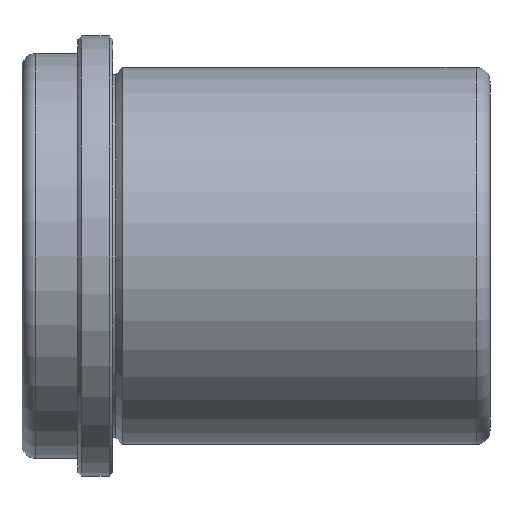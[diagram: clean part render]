
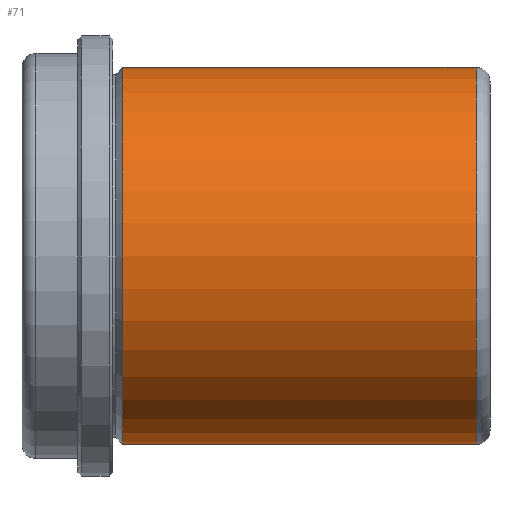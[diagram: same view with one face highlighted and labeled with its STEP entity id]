
A CAD part, front view. The second image highlights one B-rep face of the part: STEP entity #71.
In plain terms, the highlighted cylindrical face has radius 27 mm (diameter 54 mm), a full revolution.
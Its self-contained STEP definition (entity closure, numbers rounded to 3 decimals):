
#71 = ADVANCED_FACE( '', ( #154, #155, #156 ), #157, .T. );
#154 = FACE_OUTER_BOUND( '', #239, .T. );
#155 = FACE_BOUND( '', #240, .T. );
#156 = FACE_OUTER_BOUND( '', #241, .T. );
#157 = CYLINDRICAL_SURFACE( '', #242, 27. );
#239 = EDGE_LOOP( '', ( #346 ) );
#240 = EDGE_LOOP( '', ( #347 ) );
#241 = EDGE_LOOP( '', ( #348 ) );
#242 = AXIS2_PLACEMENT_3D( '', #349, #350, #351 );
#346 = ORIENTED_EDGE( '', *, *, #399, .T. );
#347 = ORIENTED_EDGE( '', *, *, #410, .T. );
#348 = ORIENTED_EDGE( '', *, *, #391, .F. );
#349 = CARTESIAN_POINT( '', ( 54., 0., 0. ) );
#350 = DIRECTION( '', ( -1., 0., 0. ) );
#351 = DIRECTION( '', ( 0., 0., -1. ) );
#391 = EDGE_CURVE( '', #438, #438, #439, .T. );
#399 = EDGE_CURVE( '', #450, #450, #451, .T. );
#410 = EDGE_CURVE( '', #467, #467, #468, .T. );
#438 = VERTEX_POINT( '', #497 );
#439 = CIRCLE( '', #498, 27. );
#450 = VERTEX_POINT( '', #509 );
#451 = CIRCLE( '', #510, 27. );
#467 = VERTEX_POINT( '', #526 );
#468 = B_SPLINE_CURVE_WITH_KNOTS( '', 3, ( #527, #528, #529, #530, #531, #532, #533, #534, #535, #536, #537, #538, #539, #540, #541, #542, #543, #544, #545, #546, #547, #548, #549, #550, #551, #552, #553, #554, #555, #556, #557, #558, #559, #560, #561, #562, #563, #564, #565, #566, #567, #568, #569, #570, #571, #572, #573, #574, #575, #576, #577, #578, #579, #580, #581, #582, #583, #584, #585, #586, #587, #588, #589, #590, #591, #592 ), .UNSPECIFIED., .T., .F., ( 2, 2, 2, 2, 2, 2, 2, 2, 2, 2, 2, 2, 2, 2, 2, 2, 2, 2, 2, 2, 2, 2, 2, 2, 2, 2, 2, 2, 2, 2, 2, 2, 2, 2, 2 ), ( -0.001, 0., 0.001, 0.002, 0.002, 0.003, 0.004, 0.005, 0.005, 0.006, 0.007, 0.008, 0.009, 0.009, 0.01, 0.011, 0.012, 0.013, 0.013, 0.014, 0.015, 0.016, 0.016, 0.017, 0.018, 0.019, 0.02, 0.02, 0.021, 0.022, 0.023, 0.023, 0.024, 0.025, 0.026 ), .UNSPECIFIED. );
#497 = CARTESIAN_POINT( '', ( 52., 0., -27. ) );
#498 = AXIS2_PLACEMENT_3D( '', #688, #689, #690 );
#509 = CARTESIAN_POINT( '', ( 1.414, 0., -27. ) );
#510 = AXIS2_PLACEMENT_3D( '', #700, #701, #702 );
#526 = CARTESIAN_POINT( '', ( 19., 26.702, -4. ) );
#527 = CARTESIAN_POINT( '', ( 18.735, 26.702, -4. ) );
#528 = CARTESIAN_POINT( '', ( 19.265, 26.702, -4. ) );
#529 = CARTESIAN_POINT( '', ( 19.525, 26.706, -3.974 ) );
#530 = CARTESIAN_POINT( '', ( 20.037, 26.721, -3.872 ) );
#531 = CARTESIAN_POINT( '', ( 20.291, 26.732, -3.795 ) );
#532 = CARTESIAN_POINT( '', ( 20.775, 26.76, -3.594 ) );
#533 = CARTESIAN_POINT( '', ( 21.005, 26.776, -3.471 ) );
#534 = CARTESIAN_POINT( '', ( 21.439, 26.812, -3.181 ) );
#535 = CARTESIAN_POINT( '', ( 21.645, 26.832, -3.012 ) );
#536 = CARTESIAN_POINT( '', ( 22.013, 26.871, -2.644 ) );
#537 = CARTESIAN_POINT( '', ( 22.178, 26.89, -2.443 ) );
#538 = CARTESIAN_POINT( '', ( 22.471, 26.926, -2.006 ) );
#539 = CARTESIAN_POINT( '', ( 22.595, 26.943, -1.773 ) );
#540 = CARTESIAN_POINT( '', ( 22.794, 26.97, -1.292 ) );
#541 = CARTESIAN_POINT( '', ( 22.871, 26.981, -1.04 ) );
#542 = CARTESIAN_POINT( '', ( 22.974, 26.996, -0.523 ) );
#543 = CARTESIAN_POINT( '', ( 23., 27., -0.264 ) );
#544 = CARTESIAN_POINT( '', ( 23., 27., 0.259 ) );
#545 = CARTESIAN_POINT( '', ( 22.974, 26.996, 0.524 ) );
#546 = CARTESIAN_POINT( '', ( 22.872, 26.981, 1.038 ) );
#547 = CARTESIAN_POINT( '', ( 22.796, 26.97, 1.287 ) );
#548 = CARTESIAN_POINT( '', ( 22.596, 26.943, 1.772 ) );
#549 = CARTESIAN_POINT( '', ( 22.471, 26.926, 2.006 ) );
#550 = CARTESIAN_POINT( '', ( 22.181, 26.891, 2.439 ) );
#551 = CARTESIAN_POINT( '', ( 22.016, 26.871, 2.641 ) );
#552 = CARTESIAN_POINT( '', ( 21.643, 26.832, 3.014 ) );
#553 = CARTESIAN_POINT( '', ( 21.441, 26.813, 3.179 ) );
#554 = CARTESIAN_POINT( '', ( 21.009, 26.777, 3.469 ) );
#555 = CARTESIAN_POINT( '', ( 20.775, 26.76, 3.594 ) );
#556 = CARTESIAN_POINT( '', ( 20.291, 26.732, 3.795 ) );
#557 = CARTESIAN_POINT( '', ( 20.041, 26.721, 3.871 ) );
#558 = CARTESIAN_POINT( '', ( 19.528, 26.706, 3.974 ) );
#559 = CARTESIAN_POINT( '', ( 19.263, 26.702, 4. ) );
#560 = CARTESIAN_POINT( '', ( 18.74, 26.702, 4. ) );
#561 = CARTESIAN_POINT( '', ( 18.48, 26.706, 3.975 ) );
#562 = CARTESIAN_POINT( '', ( 17.963, 26.721, 3.872 ) );
#563 = CARTESIAN_POINT( '', ( 17.711, 26.732, 3.796 ) );
#564 = CARTESIAN_POINT( '', ( 17.23, 26.76, 3.596 ) );
#565 = CARTESIAN_POINT( '', ( 16.997, 26.776, 3.472 ) );
#566 = CARTESIAN_POINT( '', ( 16.56, 26.812, 3.18 ) );
#567 = CARTESIAN_POINT( '', ( 16.359, 26.832, 3.015 ) );
#568 = CARTESIAN_POINT( '', ( 15.99, 26.871, 2.647 ) );
#569 = CARTESIAN_POINT( '', ( 15.821, 26.89, 2.441 ) );
#570 = CARTESIAN_POINT( '', ( 15.53, 26.926, 2.008 ) );
#571 = CARTESIAN_POINT( '', ( 15.407, 26.942, 1.778 ) );
#572 = CARTESIAN_POINT( '', ( 15.206, 26.97, 1.294 ) );
#573 = CARTESIAN_POINT( '', ( 15.129, 26.981, 1.04 ) );
#574 = CARTESIAN_POINT( '', ( 15.027, 26.996, 0.528 ) );
#575 = CARTESIAN_POINT( '', ( 15., 27., 0.268 ) );
#576 = CARTESIAN_POINT( '', ( 15., 27., -0.261 ) );
#577 = CARTESIAN_POINT( '', ( 15.026, 26.996, -0.521 ) );
#578 = CARTESIAN_POINT( '', ( 15.127, 26.981, -1.033 ) );
#579 = CARTESIAN_POINT( '', ( 15.204, 26.97, -1.288 ) );
#580 = CARTESIAN_POINT( '', ( 15.404, 26.943, -1.772 ) );
#581 = CARTESIAN_POINT( '', ( 15.527, 26.927, -2.001 ) );
#582 = CARTESIAN_POINT( '', ( 15.817, 26.891, -2.437 ) );
#583 = CARTESIAN_POINT( '', ( 15.985, 26.871, -2.642 ) );
#584 = CARTESIAN_POINT( '', ( 16.353, 26.832, -3.011 ) );
#585 = CARTESIAN_POINT( '', ( 16.554, 26.813, -3.176 ) );
#586 = CARTESIAN_POINT( '', ( 16.992, 26.777, -3.469 ) );
#587 = CARTESIAN_POINT( '', ( 17.223, 26.76, -3.593 ) );
#588 = CARTESIAN_POINT( '', ( 17.704, 26.732, -3.793 ) );
#589 = CARTESIAN_POINT( '', ( 17.957, 26.721, -3.871 ) );
#590 = CARTESIAN_POINT( '', ( 18.474, 26.706, -3.974 ) );
#591 = CARTESIAN_POINT( '', ( 18.735, 26.702, -4. ) );
#592 = CARTESIAN_POINT( '', ( 19.265, 26.702, -4. ) );
#688 = CARTESIAN_POINT( '', ( 52., 0., 0. ) );
#689 = DIRECTION( '', ( 1., 0., 0. ) );
#690 = DIRECTION( '', ( 0., 0., -1. ) );
#700 = CARTESIAN_POINT( '', ( 1.414, 0., 0. ) );
#701 = DIRECTION( '', ( 1., 0., 0. ) );
#702 = DIRECTION( '', ( 0., 0., -1. ) );
